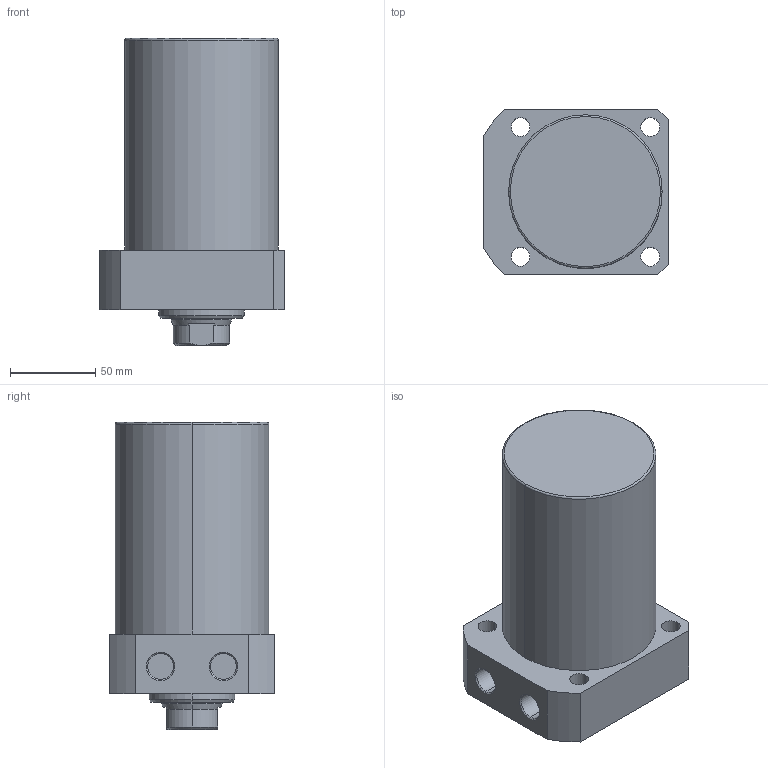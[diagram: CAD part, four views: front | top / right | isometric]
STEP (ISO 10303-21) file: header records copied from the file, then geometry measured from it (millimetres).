
FILE_DESCRIPTION (( 'STEP AP203' ), '1' );
FILE_NAME ('CLLR-090CA-080.STEP', '2019-12-18T06:22:41', ( '' ), ( '' ), 'SwSTEP 2.0', 'SolidWorks 2015', '' );
FILE_SCHEMA (( 'CONFIG_CONTROL_DESIGN' ));
Length unit declared in the file: millimetre
Products named in the file (1): CLLR-090CA-080
Bounding box: 108 x 97 x 180 mm (x, y, z)
Volume: 1137759.3 mm3; surface area: 80147.6 mm2
Topology: 1 solids, 1 shells, 65 faces, 151 edges, 94 vertices
Faces by surface type: cylinder 29, plane 19, cone 15, torus 2
Entity records: 1977 total; most frequent: CARTESIAN_POINT 357, DIRECTION 350, ORIENTED_EDGE 298, EDGE_CURVE 149, AXIS2_PLACEMENT_3D 143, VERTEX_POINT 94, EDGE_LOOP 81, CIRCLE 77
